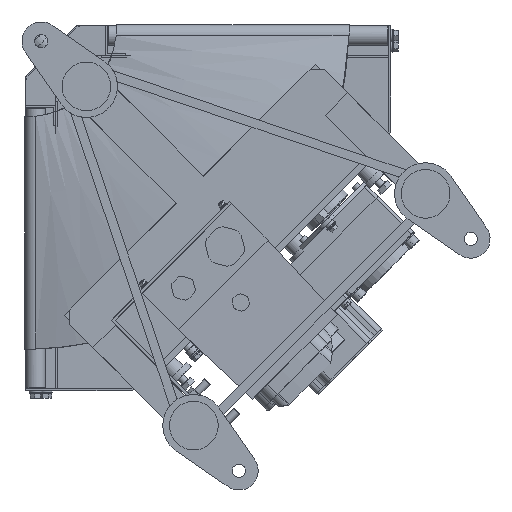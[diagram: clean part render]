
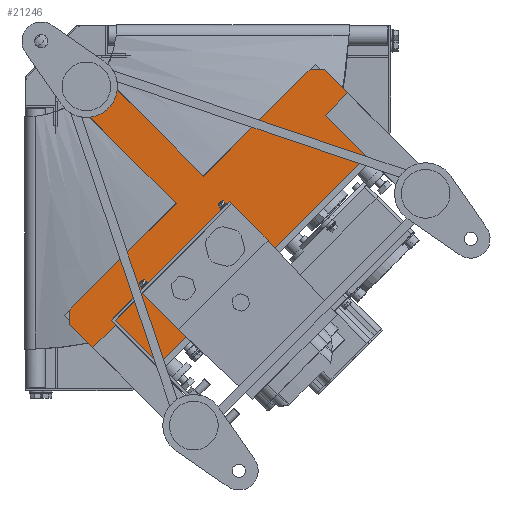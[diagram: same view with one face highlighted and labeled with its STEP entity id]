
A CAD part, front view. The second image highlights one B-rep face of the part: STEP entity #21246.
In plain terms, the highlighted planar face has unit normal (0, -1, 0).
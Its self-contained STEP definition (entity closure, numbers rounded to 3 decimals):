
#502 = ORIENTED_EDGE ( 'NONE', *, *, #4433, .T. ) ;
#640 = VECTOR ( 'NONE', #47330, 1000. ) ;
#648 = CARTESIAN_POINT ( 'NONE',  ( 294.51, -167.5, -43.487 ) ) ;
#1049 = LINE ( 'NONE', #56504, #42354 ) ;
#1158 = VECTOR ( 'NONE', #44212, 1000. ) ;
#1571 = CARTESIAN_POINT ( 'NONE',  ( 0., -167.5, 0. ) ) ;
#2216 = LINE ( 'NONE', #40464, #2912 ) ;
#2597 = DIRECTION ( 'NONE',  ( -0.707, 0., 0.707 ) ) ;
#2912 = VECTOR ( 'NONE', #8780, 1000. ) ;
#4433 = EDGE_CURVE ( 'NONE', #25627, #37571, #39636, .T. ) ;
#5851 = LINE ( 'NONE', #29277, #40771 ) ;
#6424 = EDGE_LOOP ( 'NONE', ( #48592, #39597, #49562, #15219, #52696, #502, #37509, #13337, #25652, #35045 ) ) ;
#7404 = VERTEX_POINT ( 'NONE', #34600 ) ;
#8378 = LINE ( 'NONE', #40292, #58164 ) ;
#8780 = DIRECTION ( 'NONE',  ( 0.707, 0., -0.707 ) ) ;
#8981 = VECTOR ( 'NONE', #51606, 1000. ) ;
#9227 = CARTESIAN_POINT ( 'NONE',  ( 148.492, -167.5, -175.362 ) ) ;
#10529 = DIRECTION ( 'NONE',  ( 0., -1., 0. ) ) ;
#10814 = DIRECTION ( 'NONE',  ( -0.707, 0., -0.707 ) ) ;
#10962 = EDGE_CURVE ( 'NONE', #20128, #18616, #25396, .T. ) ;
#12770 = LINE ( 'NONE', #20406, #640 ) ;
#12970 = CARTESIAN_POINT ( 'NONE',  ( 43.487, -167.5, -294.51 ) ) ;
#13337 = ORIENTED_EDGE ( 'NONE', *, *, #10962, .T. ) ;
#15004 = VECTOR ( 'NONE', #47076, 1000. ) ;
#15219 = ORIENTED_EDGE ( 'NONE', *, *, #39823, .T. ) ;
#15954 = EDGE_CURVE ( 'NONE', #17251, #25627, #8378, .T. ) ;
#16099 = CARTESIAN_POINT ( 'NONE',  ( 294.51, -167.5, -43.487 ) ) ;
#17251 = VERTEX_POINT ( 'NONE', #56739 ) ;
#18616 = VERTEX_POINT ( 'NONE', #50186 ) ;
#18808 = VECTOR ( 'NONE', #2597, 1000. ) ;
#20128 = VERTEX_POINT ( 'NONE', #31182 ) ;
#20406 = CARTESIAN_POINT ( 'NONE',  ( 280.368, -167.5, -43.487 ) ) ;
#21246 = ADVANCED_FACE ( 'NONE', ( #58598 ), #42587, .T. ) ;
#21673 = VERTEX_POINT ( 'NONE', #37033 ) ;
#23585 = CARTESIAN_POINT ( 'NONE',  ( 43.487, -167.5, -280.368 ) ) ;
#25391 = EDGE_CURVE ( 'NONE', #41983, #32744, #5851, .T. ) ;
#25396 = LINE ( 'NONE', #23585, #8981 ) ;
#25627 = VERTEX_POINT ( 'NONE', #40047 ) ;
#25652 = ORIENTED_EDGE ( 'NONE', *, *, #35456, .F. ) ;
#27496 = CARTESIAN_POINT ( 'NONE',  ( 43.487, -167.5, -280.368 ) ) ;
#29277 = CARTESIAN_POINT ( 'NONE',  ( 43.487, -167.5, -294.51 ) ) ;
#29301 = LINE ( 'NONE', #42705, #15004 ) ;
#31182 = CARTESIAN_POINT ( 'NONE',  ( 280.368, -167.5, -43.487 ) ) ;
#31602 = AXIS2_PLACEMENT_3D ( 'NONE', #1571, #10529, #42207 ) ;
#32392 = CARTESIAN_POINT ( 'NONE',  ( 12.728, -167.5, -39.598 ) ) ;
#32744 = VERTEX_POINT ( 'NONE', #12970 ) ;
#34600 = CARTESIAN_POINT ( 'NONE',  ( 39.598, -167.5, -12.728 ) ) ;
#35045 = ORIENTED_EDGE ( 'NONE', *, *, #40746, .F. ) ;
#35338 = CARTESIAN_POINT ( 'NONE',  ( 12.728, -167.5, -39.598 ) ) ;
#35456 = EDGE_CURVE ( 'NONE', #7404, #18616, #2216, .T. ) ;
#36408 = EDGE_CURVE ( 'NONE', #37402, #41983, #1049, .T. ) ;
#37033 = CARTESIAN_POINT ( 'NONE',  ( 12.728, -167.5, -39.598 ) ) ;
#37402 = VERTEX_POINT ( 'NONE', #9227 ) ;
#37509 = ORIENTED_EDGE ( 'NONE', *, *, #54656, .T. ) ;
#37571 = VERTEX_POINT ( 'NONE', #648 ) ;
#38266 = DIRECTION ( 'NONE',  ( 0., 0., -1. ) ) ;
#38741 = LINE ( 'NONE', #35338, #18808 ) ;
#39597 = ORIENTED_EDGE ( 'NONE', *, *, #36408, .T. ) ;
#39636 = LINE ( 'NONE', #16099, #1158 ) ;
#39823 = EDGE_CURVE ( 'NONE', #32744, #17251, #29301, .T. ) ;
#40047 = CARTESIAN_POINT ( 'NONE',  ( 358.15, -167.5, -107.127 ) ) ;
#40200 = EDGE_CURVE ( 'NONE', #37402, #21673, #38741, .T. ) ;
#40292 = CARTESIAN_POINT ( 'NONE',  ( 107.127, -167.5, -358.15 ) ) ;
#40464 = CARTESIAN_POINT ( 'NONE',  ( 39.598, -167.5, -12.728 ) ) ;
#40746 = EDGE_CURVE ( 'NONE', #21673, #7404, #57464, .T. ) ;
#40771 = VECTOR ( 'NONE', #38266, 1000. ) ;
#41983 = VERTEX_POINT ( 'NONE', #27496 ) ;
#42207 = DIRECTION ( 'NONE',  ( 0., 0., -1. ) ) ;
#42354 = VECTOR ( 'NONE', #10814, 1000. ) ;
#42587 = PLANE ( 'NONE',  #31602 ) ;
#42705 = CARTESIAN_POINT ( 'NONE',  ( 43.487, -167.5, -294.51 ) ) ;
#44212 = DIRECTION ( 'NONE',  ( -0.707, 0., 0.707 ) ) ;
#45481 = VECTOR ( 'NONE', #46459, 1000. ) ;
#46459 = DIRECTION ( 'NONE',  ( 0.707, 0., 0.707 ) ) ;
#47076 = DIRECTION ( 'NONE',  ( 0.707, 0., -0.707 ) ) ;
#47330 = DIRECTION ( 'NONE',  ( -1., 0., 0. ) ) ;
#48592 = ORIENTED_EDGE ( 'NONE', *, *, #40200, .F. ) ;
#49562 = ORIENTED_EDGE ( 'NONE', *, *, #25391, .T. ) ;
#49607 = DIRECTION ( 'NONE',  ( 0.707, 0., 0.707 ) ) ;
#50186 = CARTESIAN_POINT ( 'NONE',  ( 175.362, -167.5, -148.492 ) ) ;
#51606 = DIRECTION ( 'NONE',  ( -0.707, 0., -0.707 ) ) ;
#52696 = ORIENTED_EDGE ( 'NONE', *, *, #15954, .T. ) ;
#54656 = EDGE_CURVE ( 'NONE', #37571, #20128, #12770, .T. ) ;
#56504 = CARTESIAN_POINT ( 'NONE',  ( 43.487, -167.5, -280.368 ) ) ;
#56739 = CARTESIAN_POINT ( 'NONE',  ( 107.127, -167.5, -358.15 ) ) ;
#57464 = LINE ( 'NONE', #32392, #45481 ) ;
#58164 = VECTOR ( 'NONE', #49607, 1000. ) ;
#58598 = FACE_OUTER_BOUND ( 'NONE', #6424, .T. ) ;
